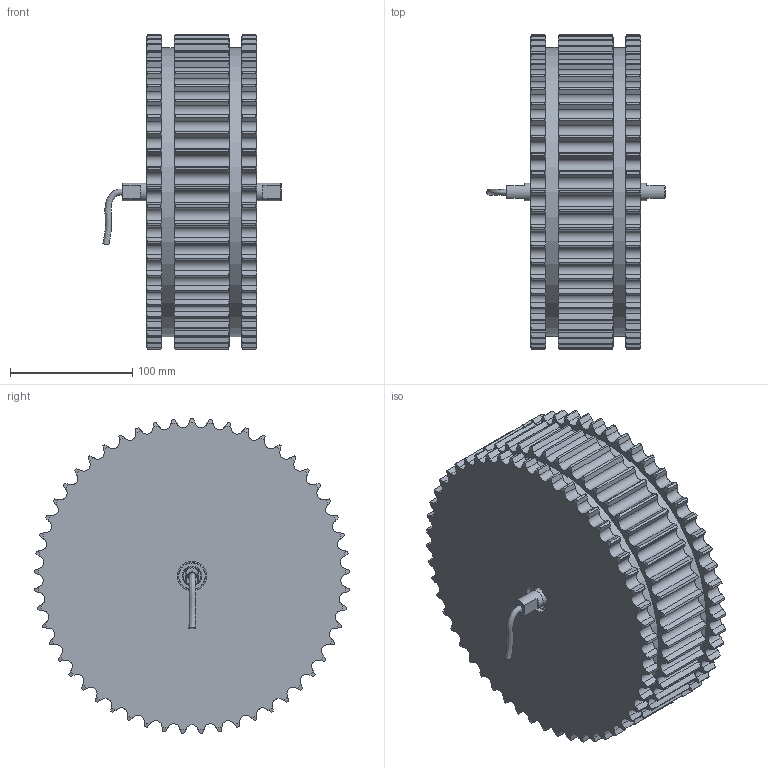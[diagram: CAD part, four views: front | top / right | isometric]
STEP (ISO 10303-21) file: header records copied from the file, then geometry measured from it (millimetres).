
FILE_DESCRIPTION((''),'2;1');
FILE_NAME('E:\SAT-STEP-DATEIEN-Scheibenantriebe\Scheibenantrieb-20-SW10-Z53-RB10-15.stp','2009-08-16T10:01:15',('Siegmund'),(''),'Autodesk Inventor 11','Autodesk Inventor 11','');
FILE_SCHEMA(('AUTOMOTIVE_DESIGN { 1 0 10303 214 1 1 1 1 }'));
Length unit declared in the file: millimetre
Products named in the file (5): Scheibenantrieb-20-SW10-Z53-RB10-15; 20-Achse-mit-SW; ZRGF-15-Bandage-53-20Nm; 6202; kabel-2
Assembly tree (5 placements, depth 2):
  Scheibenantrieb-20-SW10-Z53-RB10-15
    20-Achse-mit-SW
    ZRGF-15-Bandage-53-20Nm
    6202  x2
    kabel-2
Bounding box: 145.74 x 257.49 x 257.38 mm (x, y, z)
Volume: 4225085.8 mm3; surface area: 243813.8 mm2
Topology: 21 solids, 21 shells, 1088 faces, 3147 edges, 2089 vertices
Faces by surface type: cylinder 667, cone 324, plane 43, bspline 32, sphere 14, torus 8
Full cylindrical faces by diameter (mm): 14 x2, 14.5 x4, 15 x4, 16 x1, 16.5 x1, 17.05 x1, 18.5 x1, 21.52 x4, 22 x2, 24 x2, 28.48 x4, 35 x3, 236 x2
Entity records: 37858 total; most frequent: CARTESIAN_POINT 9745, DIRECTION 6170, ORIENTED_EDGE 6028, EDGE_CURVE 3014, AXIS2_PLACEMENT_3D 2757, VERTEX_POINT 2015, CIRCLE 1710, EDGE_LOOP 1119
